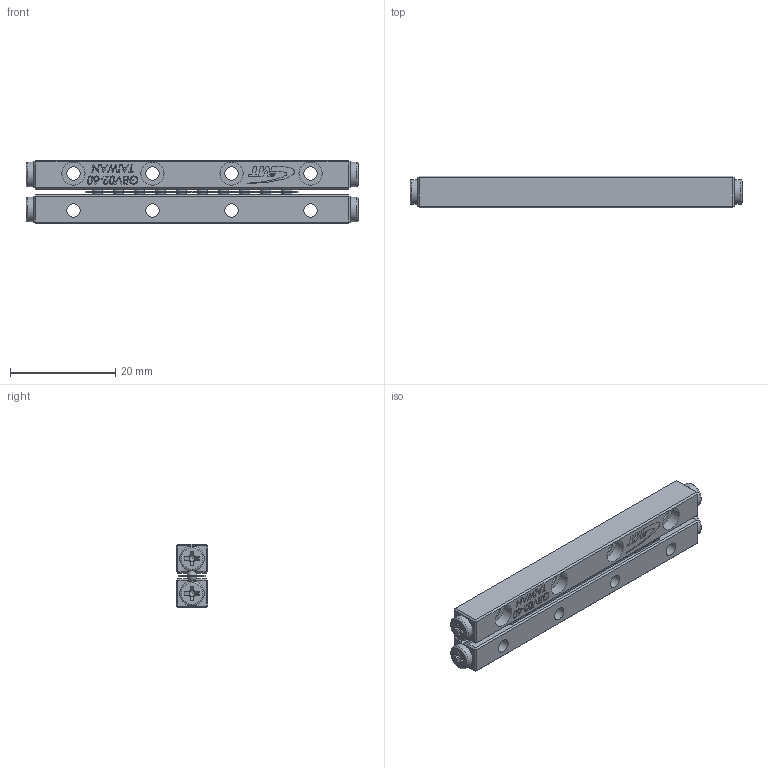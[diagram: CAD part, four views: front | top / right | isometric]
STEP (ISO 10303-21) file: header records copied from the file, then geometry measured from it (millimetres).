
FILE_DESCRIPTION (( 'STEP AP203' ), '1' );
FILE_NAME ('GBV02-60.STEP', '2023-09-15T05:29:08', ( '' ), ( '' ), 'SwSTEP 2.0', 'SolidWorks 2019', '' );
FILE_SCHEMA (( 'CONFIG_CONTROL_DESIGN' ));
Length unit declared in the file: millimetre
Products named in the file (3): GBV02-60-模糊化保持器組; GBV02-60-模糊化軌道; GBV02-60
Assembly tree (3 placements, depth 2):
  GBV02-60
    GBV02-60-模糊化軌道  x2
    GBV02-60-模糊化保持器組
Bounding box: 63 x 6 x 12 mm (x, y, z)
Volume: 3564.5 mm3; surface area: 3984.8 mm2
Topology: 3 solids, 3 shells, 672 faces, 1666 edges, 1072 vertices
Faces by surface type: plane 454, bspline 132, cone 36, cylinder 22, sphere 20, torus 8
Full cylindrical faces by diameter (mm): 2.55 x8, 4.4 x8, 4.7 x4
Entity records: 13864 total; most frequent: CARTESIAN_POINT 5852, ORIENTED_EDGE 1658, DIRECTION 1335, EDGE_CURVE 829, LINE 577, VECTOR 577, VERTEX_POINT 544, EDGE_LOOP 421
